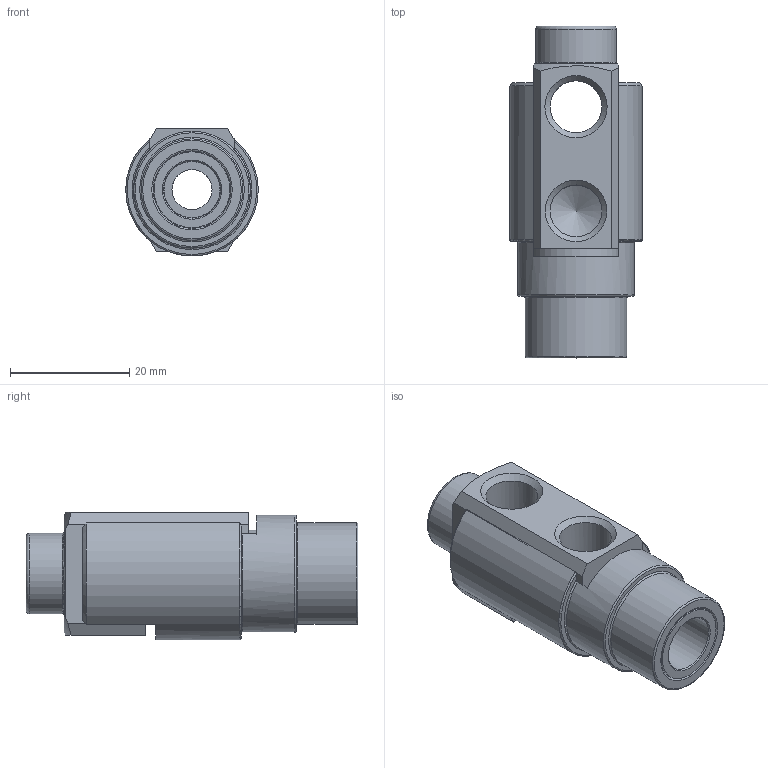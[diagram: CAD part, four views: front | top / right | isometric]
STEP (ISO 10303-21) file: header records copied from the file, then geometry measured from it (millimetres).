
FILE_DESCRIPTION(/* description */ (''),/* implementation_level */ '2;1');
FILE_NAME(/* name */ 'C:/Users/drich/Desktop/CAD FILES/SINCE 1-10-20/Rear Load Cascades/Quick Coupler Type/Head Only/SC186H-RL v2.step',/* time_stamp */ '2020-01-12T14:45:11-06:00',/* author */ (''),/* organization */ (''),/* preprocessor_version */ 'ST-DEVELOPER v18',/* originating_system */ 'Autodesk Translation Framework v8.12.0.6',/* authorisation */ '');
FILE_SCHEMA (('AUTOMOTIVE_DESIGN { 1 0 10303 214 3 1 1 }'));
Length unit declared in the file: inch
Products named in the file (4): SC186H-RL; SC186H-RL HEAD; BLACK SEAL; SC186H Sleeve
Assembly tree (3 placements, depth 3):
  SC186H-RL
    SC186H-RL HEAD
      BLACK SEAL
      SC186H Sleeve
Bounding box: 22.2 x 55.55 x 21.41 mm (x, y, z)
Volume: 12130.1 mm3; surface area: 9838.8 mm2
Topology: 3 solids, 3 shells, 80 faces, 229 edges, 158 vertices
Faces by surface type: plane 35, cylinder 21, cone 16, torus 8
Full cylindrical faces by diameter (mm): 6.697 x1, 6.706 x1, 6.731 x2, 8.707 x4, 9.398 x1, 9.5 x1, 12.7 x1, 12.954 x1, 13.462 x1, 15.165 x1, 17.018 x1, 19.558 x1
Entity records: 2950 total; most frequent: CARTESIAN_POINT 677, DIRECTION 483, ORIENTED_EDGE 456, EDGE_CURVE 228, AXIS2_PLACEMENT_3D 200, VERTEX_POINT 158, CIRCLE 107, EDGE_LOOP 96
